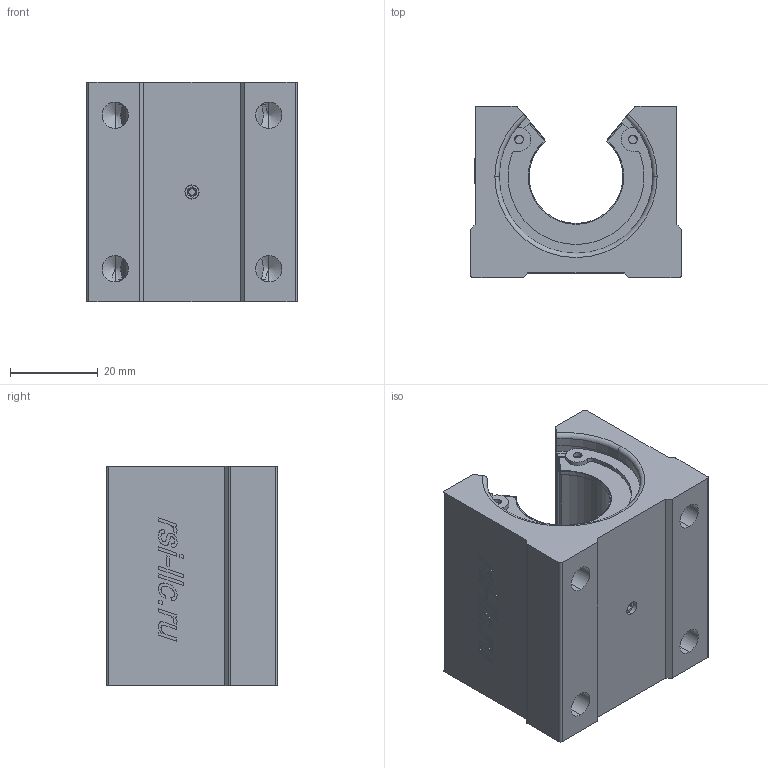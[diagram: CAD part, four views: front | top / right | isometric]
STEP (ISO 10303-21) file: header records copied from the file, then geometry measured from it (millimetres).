
FILE_DESCRIPTION (( 'STEP AP214' ), '1' );
FILE_NAME ('SBR20UU.STEP', '2020-10-19T10:25:34', ( '' ), ( '' ), 'SwSTEP 2.0', 'SolidWorks 2018', '' );
FILE_SCHEMA (( 'AUTOMOTIVE_DESIGN' ));
Length unit declared in the file: millimetre
Products named in the file (6): SBR20UU; SBR20UU-05; SBR20UU-04; SBR20UU-03; SBR20UU-02; SBR20UU-01
Assembly tree (7 placements, depth 2):
  SBR20UU
    SBR20UU-01
    SBR20UU-02
    SBR20UU-03
    SBR20UU-04  x2
    SBR20UU-05  x2
Bounding box: 48 x 39 x 50 mm (x, y, z)
Volume: 58189.2 mm3; surface area: 31321.2 mm2
Topology: 8 solids, 8 shells, 314 faces, 866 edges, 568 vertices
Faces by surface type: plane 138, cylinder 123, bspline 32, cone 15, torus 6
Entity records: 12605 total; most frequent: CARTESIAN_POINT 3951, ORIENTED_EDGE 1530, DIRECTION 1391, EDGE_CURVE 765, VERTEX_POINT 506, AXIS2_PLACEMENT_3D 472, VECTOR 447, LINE 447
